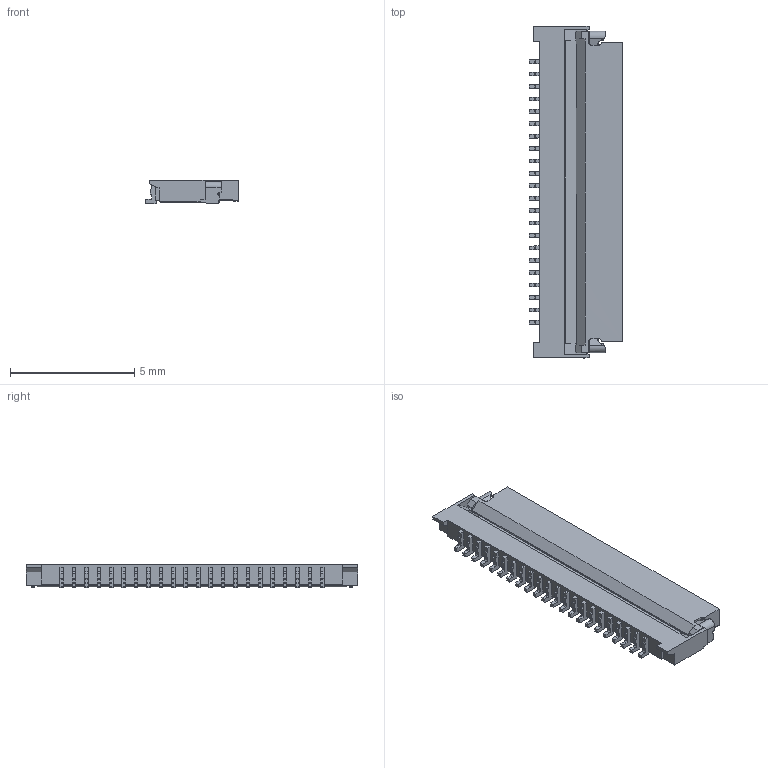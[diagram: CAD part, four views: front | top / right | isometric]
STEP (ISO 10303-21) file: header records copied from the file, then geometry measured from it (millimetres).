
FILE_DESCRIPTION (( 'STEP AP214' ), '1' );
FILE_NAME ('006809622010.STEP', '2023-02-21T01:54:29', ( '' ), ( '' ), 'SwSTEP 2.0', 'SolidWorks 2021', '' );
FILE_SCHEMA (( 'AUTOMOTIVE_DESIGN' ));
Length unit declared in the file: millimetre
Products named in the file (1): 006809622010
Bounding box: 3.75 x 13.37 x 0.93 mm (x, y, z)
Volume: 24.6 mm3; surface area: 178.6 mm2
Topology: 1 solids, 1 shells, 595 faces, 1834 edges, 1239 vertices
Faces by surface type: plane 420, cylinder 169, cone 4, sphere 2
Entity records: 21029 total; most frequent: CARTESIAN_POINT 5384, ORIENTED_EDGE 3668, DIRECTION 2774, EDGE_CURVE 1834, VERTEX_POINT 1239, LINE 982, VECTOR 982, AXIS2_PLACEMENT_3D 896
